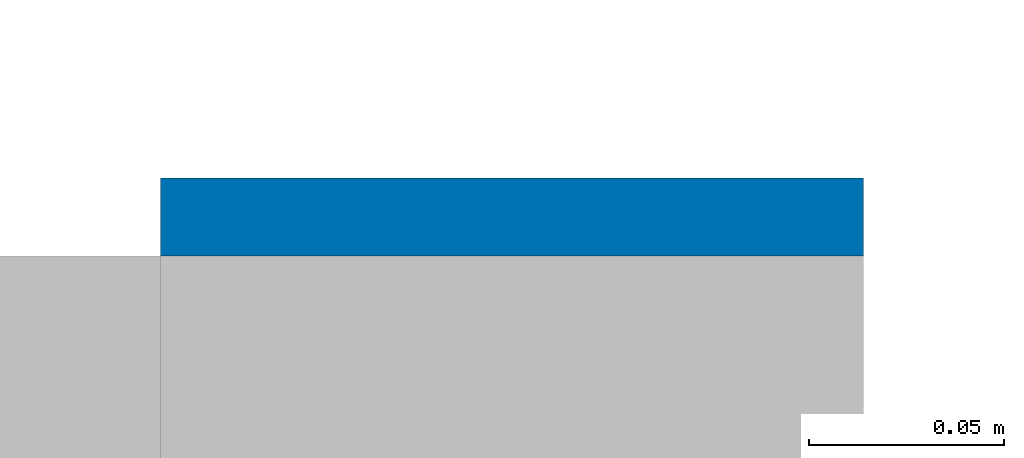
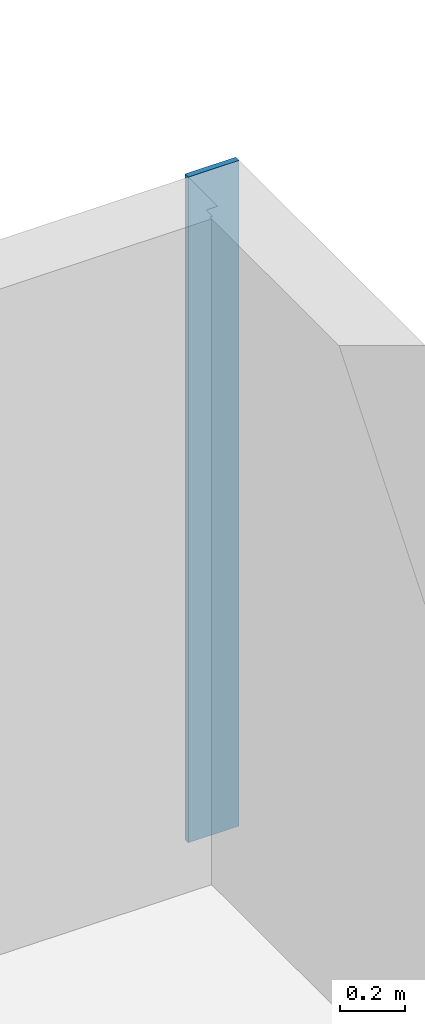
# One storey, part 6 of 9: 1 wall.
"""IFC2X3 building model written with IfcOpenShell, lengths in metres."""

import ifcopenshell
import ifcopenshell.guid

model = None  # the IFC model being written
_history = None  # IfcOwnerHistory: only IFC2X3 demands one
_inside = {}  # id of a spatial element -> (the spatial element, [elements in it])
_under = {}  # id of a project, library or spatial element -> (it, [spatial elements below it])
_declared = {}  # id of a project -> (the project, [libraries it declares])
_typed = {}  # id of a type object -> (the type object, [elements of that type])
_made_of = {}  # id of a material, layer set ... -> (it, [elements and type objects made of it])


def new_model(schema):
    """Start an empty IFC model of exactly this schema.

    Asked for "IFC4X3", IfcOpenShell would pick the latest addendum, in which some entities
    have other attributes; the version numbers below select the first issue.
    IFC2X3 requires an IfcOwnerHistory on every rooted entity: one is made here for all.
    """
    global model, _history
    if schema == "IFC4X3":
        model = ifcopenshell.file(schema_version=(4, 3, 0, 0))
    else:
        model = ifcopenshell.file(schema=schema)
    _inside.clear()
    _under.clear()
    _declared.clear()
    _typed.clear()
    _made_of.clear()
    _history = None
    if model.schema == "IFC2X3":
        org = make("IfcOrganization", Name="unknown")
        user = make(
            "IfcPersonAndOrganization",
            ThePerson=make("IfcPerson", FamilyName="unknown"),
            TheOrganization=org,
        )
        app = make(
            "IfcApplication",
            ApplicationDeveloper=org,
            Version="unknown",
            ApplicationFullName="unknown",
            ApplicationIdentifier="unknown",
        )
        _history = make(
            "IfcOwnerHistory",
            OwningUser=user,
            OwningApplication=app,
            ChangeAction="ADDED",
            CreationDate=0,
        )
    return model


def make(cls, **values):
    """One entity of the class cls with the attributes given. An attribute that is None is left unset."""
    return model.create_entity(
        cls, **{name: value for name, value in values.items() if value is not None}
    )


def rooted(cls, **values):
    """An entity with a GlobalId (a new one), such as an element, a storey or a relation."""
    return make(cls, GlobalId=ifcopenshell.guid.new(), OwnerHistory=_history, **values)


def si_unit(unit_type, name, prefix=None):
    """IfcSIUnit, for example si_unit("LENGTHUNIT", "METRE", prefix="MILLI")."""
    return make("IfcSIUnit", UnitType=unit_type, Prefix=prefix, Name=name)


def assignment(units):
    """IfcUnitAssignment: the units of a project."""
    return None if units is None else make("IfcUnitAssignment", Units=units)


def point(xyz):
    """IfcCartesianPoint."""
    return None if xyz is None else make("IfcCartesianPoint", Coordinates=xyz)


def direction(xyz):
    """IfcDirection."""
    return None if xyz is None else make("IfcDirection", DirectionRatios=xyz)


def frame(location, z_axis=None, x_axis=None):
    """IfcAxis2Placement3D, a coordinate frame: its origin and axes. An axis left out is left unset."""
    return make(
        "IfcAxis2Placement3D",
        Location=point(location),
        Axis=direction(z_axis),
        RefDirection=direction(x_axis),
    )


def frame_2d(location, x_axis=None):
    """IfcAxis2Placement2D, a coordinate frame in the plane: its origin and x axis."""
    return make(
        "IfcAxis2Placement2D", Location=point(location), RefDirection=direction(x_axis)
    )


def origin():
    """The frame at (0, 0, 0) with its axes left unset."""
    return frame((0.0, 0.0, 0.0))


def place(relative_to, where):
    """IfcLocalPlacement: puts the frame where relative to a parent placement (None: the world)."""
    return make(
        "IfcLocalPlacement", PlacementRelTo=relative_to, RelativePlacement=where
    )


def context(
    kind, dimensions, precision=None, world=None, true_north=None, identifier=None
):
    """IfcGeometricRepresentationContext, for example the 3D "Model" context."""
    return make(
        "IfcGeometricRepresentationContext",
        ContextIdentifier=identifier,
        ContextType=kind,
        CoordinateSpaceDimension=dimensions,
        Precision=precision,
        WorldCoordinateSystem=world,
        TrueNorth=true_north,
    )


def project(units=None, contexts=None):
    """IfcProject with its units and contexts."""
    return rooted(
        "IfcProject",
        Name="project",
        RepresentationContexts=contexts,
        UnitsInContext=assignment(units),
    )


def spatial(cls, under=None, at=None, **own):
    """A site, building, storey or space (cls), placed at a placement, below another one or the project."""
    s = rooted(cls, ObjectPlacement=at, **own)
    if under is not None:
        _under.setdefault(under.id(), (under, []))[1].append(s)
    return s


def profile(cls, at=None, kind="AREA", **sizes):
    """A parametric profile (cls). Its sizes go by their IFC names, for example OverallWidth=200.0."""
    return make(cls, ProfileType=kind, Position=at, **sizes)


def rectangle(**sizes):
    """IfcRectangleProfileDef."""
    return profile("IfcRectangleProfileDef", **sizes)


def extrude(swept, where, along, depth):
    """IfcExtrudedAreaSolid: the profile swept, set in the frame where, extruded along a direction by depth."""
    return make(
        "IfcExtrudedAreaSolid",
        SweptArea=swept,
        Position=where,
        ExtrudedDirection=direction(along),
        Depth=depth,
    )


def shape(context_of_items, identifier, shape_type, items):
    """IfcShapeRepresentation: the items that make up one representation, for example the "Body"."""
    return make(
        "IfcShapeRepresentation",
        ContextOfItems=context_of_items,
        RepresentationIdentifier=identifier,
        RepresentationType=shape_type,
        Items=items,
    )


def made_of(thing, what):
    """Note that an element or type object is made of a material, layer set ...; save() writes the relation."""
    if what is not None:
        _made_of.setdefault(what.id(), (what, []))[1].append(thing)
    return thing


def element(
    cls,
    number,
    at=None,
    inside=None,
    cuts=None,
    type_object=None,
    material=None,
    context=None,
    identifier="Body",
    shape_type=None,
    held_by="IfcProductDefinitionShape",
    body=None,
    shapes=None,
    **own,
):
    """One element of the class cls, such as IfcWall. Its Tag is "e" and its number.

    at: its placement. inside: the storey or other place that contains it. cuts: it is an
    opening in that element (IfcRelVoidsElement). A single representation is given by context,
    identifier, shape_type and body (its items); several are given by shapes. held_by: the class
    of the entity that holds the representations. save() writes the other relations.
    """
    e = rooted(cls, Tag="e%d" % number, ObjectPlacement=at, **own)
    if body is not None:
        shapes = [shape(context, identifier, shape_type, body)]
    if shapes is not None:
        e.Representation = make(held_by, Representations=shapes)
    if inside is not None:
        _inside.setdefault(inside.id(), (inside, []))[1].append(e)
    if cuts is not None:
        rooted(
            "IfcRelVoidsElement", RelatingBuildingElement=cuts, RelatedOpeningElement=e
        )
    if type_object is not None:
        _typed.setdefault(type_object.id(), (type_object, []))[1].append(e)
    return made_of(e, material)


def aggregate(whole, parts):
    """IfcRelAggregates: a whole, such as a stair, and the parts it consists of."""
    return rooted("IfcRelAggregates", RelatingObject=whole, RelatedObjects=parts)


def save(model, path):
    """Write the relations noted so far, then the file.

    IfcRelAggregates (storeys below a building ...), IfcRelContainedInSpatialStructure (elements
    in a storey), IfcRelDefinesByType, IfcRelAssociatesMaterial and IfcRelDeclares: one each for
    every whole, place, type object, material and project.
    """
    for whole, parts in _under.values():
        aggregate(whole, parts)
    for where, things in _inside.values():
        rooted(
            "IfcRelContainedInSpatialStructure",
            RelatedElements=things,
            RelatingStructure=where,
        )
    for kind, things in _typed.values():
        rooted("IfcRelDefinesByType", RelatedObjects=things, RelatingType=kind)
    for what, things in _made_of.values():
        rooted("IfcRelAssociatesMaterial", RelatedObjects=things, RelatingMaterial=what)
    for by, libraries in _declared.values():
        rooted("IfcRelDeclares", RelatingContext=by, RelatedDefinitions=libraries)
    model.write(path)


model = new_model("IFC2X3")

# Units and contexts
model_context = context("Model", 3, precision=1e-06, world=origin())
ifc_project = project(units=[si_unit("LENGTHUNIT", "METRE"), si_unit("PLANEANGLEUNIT", "RADIAN")], contexts=[model_context])

# Site, building, storey
site = spatial("IfcSite", under=ifc_project, CompositionType="ELEMENT")
building = spatial("IfcBuilding", under=site, CompositionType="ELEMENT")
storey = spatial("IfcBuildingStorey", under=building, Name="r+2", CompositionType="ELEMENT", Elevation=5.4)

# Wall
placement = place(None, origin())
wall_placement = place(placement, frame((39.69999999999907, 10.470077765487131, 5.4), z_axis=(0.0, 0.0, 1.0), x_axis=(-1.0, 0.0, 0.0)))
element("IfcWall", 1, at=wall_placement, inside=storey, context=model_context, shape_type="SweptSolid", body=[
    extrude(rectangle(XDim=0.18, YDim=0.020000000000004, at=frame_2d((0.09, 0.010000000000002), x_axis=(1.0, 0.0)), kind="CURVE"), frame((0.0, -0.020000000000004, 0.0), z_axis=(0.0, 0.0, 1.0), x_axis=(1.0, 0.0, 0.0)), (0.0, 0.0, 1.0), 2.5),
])

save(model, "model.ifc")
